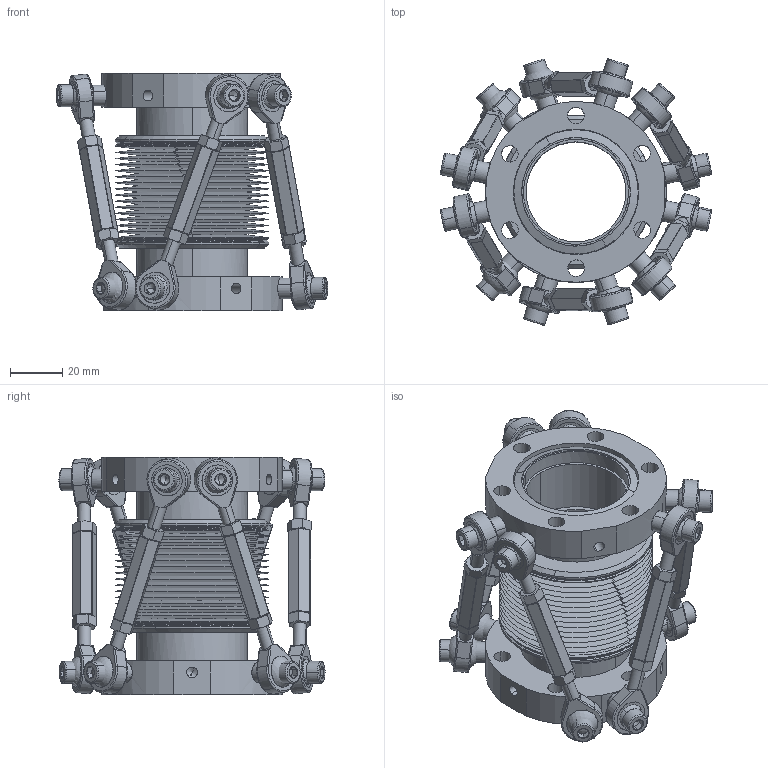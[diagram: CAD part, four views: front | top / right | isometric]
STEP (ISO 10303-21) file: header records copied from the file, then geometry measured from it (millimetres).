
FILE_DESCRIPTION(('Confidential','CAx-IF Rec.Pracs.--- Model Styling and Organization---1.2---2011-12-15'),'2;1');
FILE_NAME('W:\KONSTRUKTION\PRODUCTS\PA\PA40HEX\PA40HEX\PA40(HEX).stp','2024-04-18T12:47:07+00:00',('none'),('Ferrovac AG'),'CATIA Version 5 Release 21 SP 6 (IN-10)','CATIA V5 STEP AP214','PROPERTY OF FERROVAC AG');
FILE_SCHEMA(('AUTOMOTIVE_DESIGN { 1 0 10303 214 1 1 1 1 }'));
Products named in the file (1): PA40(HEX)
Bounding box: 104.3 x 102.25 x 91.1 mm (x, y, z)
Volume: 139865.7 mm3; surface area: 124496.6 mm2
Topology: 1 solids, 55 shells, 2100 faces, 5364 edges, 3150 vertices
Faces by surface type: plane 680, cylinder 492, cone 464, sphere 312, torus 128, bspline 24
Entity records: 70265 total; most frequent: CARTESIAN_POINT 24920, ORIENTED_EDGE 10176, DIRECTION 7229, EDGE_CURVE 5088, AXIS2_PLACEMENT_3D 3810, VERTEX_POINT 3150, EDGE_LOOP 2322, ADVANCED_FACE 2100
